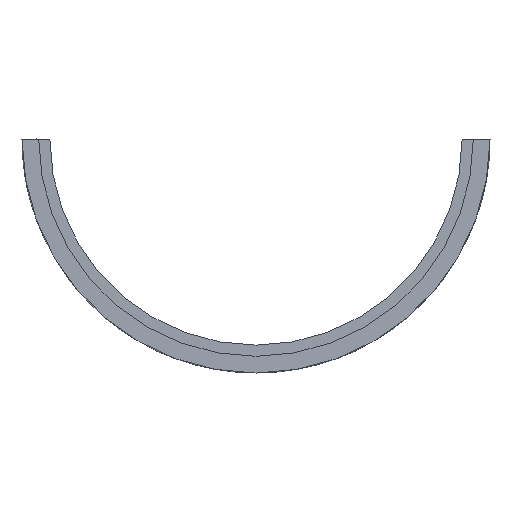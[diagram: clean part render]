
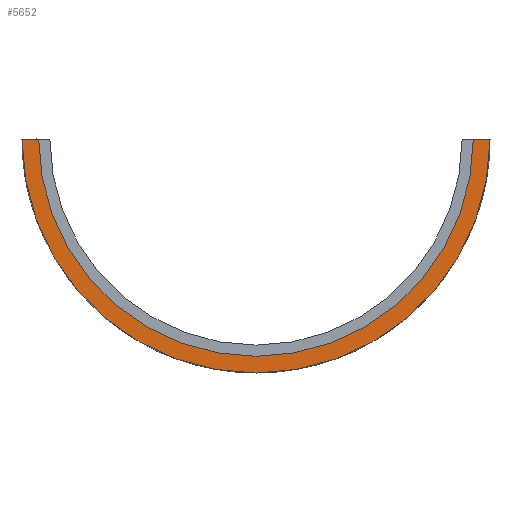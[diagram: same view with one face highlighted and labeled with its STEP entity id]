
A CAD part, left-side view. The second image highlights one B-rep face of the part: STEP entity #5652.
In plain terms, the highlighted planar face has unit normal (-1, 0, 0).
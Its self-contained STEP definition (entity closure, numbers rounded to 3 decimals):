
#21 = EDGE_CURVE('',#22,#24,#26,.T.);
#22 = VERTEX_POINT('',#23);
#23 = CARTESIAN_POINT('',(20.,-21.,0.));
#24 = VERTEX_POINT('',#25);
#25 = CARTESIAN_POINT('',(20.,21.,0.));
#26 = SURFACE_CURVE('',#27,(#32,#44),.PCURVE_S1.);
#27 = CIRCLE('',#28,21.);
#28 = AXIS2_PLACEMENT_3D('',#29,#30,#31);
#29 = CARTESIAN_POINT('',(20.,0.,0.));
#30 = DIRECTION('',(1.,0.,0.));
#31 = DIRECTION('',(0.,-1.,0.));
#32 = PCURVE('',#33,#38);
#33 = CYLINDRICAL_SURFACE('',#34,21.);
#34 = AXIS2_PLACEMENT_3D('',#35,#36,#37);
#35 = CARTESIAN_POINT('',(20.,0.,0.));
#36 = DIRECTION('',(1.,0.,0.));
#37 = DIRECTION('',(0.,0.,-1.));
#38 = DEFINITIONAL_REPRESENTATION('',(#39),#43);
#39 = LINE('',#40,#41);
#40 = CARTESIAN_POINT('',(4.712,0.));
#41 = VECTOR('',#42,1.);
#42 = DIRECTION('',(1.,0.));
#43 = ( GEOMETRIC_REPRESENTATION_CONTEXT(2) 
PARAMETRIC_REPRESENTATION_CONTEXT() REPRESENTATION_CONTEXT('2D SPACE',''
  ) );
#44 = PCURVE('',#45,#50);
#45 = PLANE('',#46);
#46 = AXIS2_PLACEMENT_3D('',#47,#48,#49);
#47 = CARTESIAN_POINT('',(20.,0.,0.));
#48 = DIRECTION('',(1.,0.,0.));
#49 = DIRECTION('',(0.,0.,-1.));
#50 = DEFINITIONAL_REPRESENTATION('',(#51),#55);
#51 = CIRCLE('',#52,21.);
#52 = AXIS2_PLACEMENT_2D('',#53,#54);
#53 = CARTESIAN_POINT('',(0.,0.));
#54 = DIRECTION('',(0.,-1.));
#55 = ( GEOMETRIC_REPRESENTATION_CONTEXT(2) 
PARAMETRIC_REPRESENTATION_CONTEXT() REPRESENTATION_CONTEXT('2D SPACE',''
  ) );
#72 = PLANE('',#73);
#73 = AXIS2_PLACEMENT_3D('',#74,#75,#76);
#74 = CARTESIAN_POINT('',(-10.,-60.,0.));
#75 = DIRECTION('',(0.,0.,1.));
#76 = DIRECTION('',(1.,0.,-0.));
#840 = PLANE('',#841);
#841 = AXIS2_PLACEMENT_3D('',#842,#843,#844);
#842 = CARTESIAN_POINT('',(-10.,-60.,0.));
#843 = DIRECTION('',(0.,0.,1.));
#844 = DIRECTION('',(1.,0.,-0.));
#5207 = CYLINDRICAL_SURFACE('',#5208,19.5);
#5208 = AXIS2_PLACEMENT_3D('',#5209,#5210,#5211);
#5209 = CARTESIAN_POINT('',(19.,0.,0.));
#5210 = DIRECTION('',(1.,0.,0.));
#5211 = DIRECTION('',(0.,0.,-1.));
#5261 = EDGE_CURVE('',#5262,#5264,#5266,.T.);
#5262 = VERTEX_POINT('',#5263);
#5263 = CARTESIAN_POINT('',(20.,-19.5,0.));
#5264 = VERTEX_POINT('',#5265);
#5265 = CARTESIAN_POINT('',(20.,19.5,0.));
#5266 = SURFACE_CURVE('',#5267,(#5272,#5279),.PCURVE_S1.);
#5267 = CIRCLE('',#5268,19.5);
#5268 = AXIS2_PLACEMENT_3D('',#5269,#5270,#5271);
#5269 = CARTESIAN_POINT('',(20.,0.,0.));
#5270 = DIRECTION('',(1.,0.,0.));
#5271 = DIRECTION('',(0.,-1.,0.));
#5272 = PCURVE('',#5207,#5273);
#5273 = DEFINITIONAL_REPRESENTATION('',(#5274),#5278);
#5274 = LINE('',#5275,#5276);
#5275 = CARTESIAN_POINT('',(4.712,1.));
#5276 = VECTOR('',#5277,1.);
#5277 = DIRECTION('',(1.,0.));
#5278 = ( GEOMETRIC_REPRESENTATION_CONTEXT(2) 
PARAMETRIC_REPRESENTATION_CONTEXT() REPRESENTATION_CONTEXT('2D SPACE',''
  ) );
#5279 = PCURVE('',#45,#5280);
#5280 = DEFINITIONAL_REPRESENTATION('',(#5281),#5285);
#5281 = CIRCLE('',#5282,19.5);
#5282 = AXIS2_PLACEMENT_2D('',#5283,#5284);
#5283 = CARTESIAN_POINT('',(0.,0.));
#5284 = DIRECTION('',(0.,-1.));
#5285 = ( GEOMETRIC_REPRESENTATION_CONTEXT(2) 
PARAMETRIC_REPRESENTATION_CONTEXT() REPRESENTATION_CONTEXT('2D SPACE',''
  ) );
#5355 = EDGE_CURVE('',#5262,#22,#5356,.T.);
#5356 = SURFACE_CURVE('',#5357,(#5361,#5367),.PCURVE_S1.);
#5357 = LINE('',#5358,#5359);
#5358 = CARTESIAN_POINT('',(20.,-30.,0.));
#5359 = VECTOR('',#5360,1.);
#5360 = DIRECTION('',(0.,-1.,0.));
#5361 = PCURVE('',#840,#5362);
#5362 = DEFINITIONAL_REPRESENTATION('',(#5363),#5366);
#5363 = B_SPLINE_CURVE_WITH_KNOTS('',1,(#5364,#5365),.UNSPECIFIED.,.F.,
  .F.,(2,2),(-51.,-9.),.PIECEWISE_BEZIER_KNOTS.);
#5364 = CARTESIAN_POINT('',(30.,81.));
#5365 = CARTESIAN_POINT('',(30.,39.));
#5366 = ( GEOMETRIC_REPRESENTATION_CONTEXT(2) 
PARAMETRIC_REPRESENTATION_CONTEXT() REPRESENTATION_CONTEXT('2D SPACE',''
  ) );
#5367 = PCURVE('',#45,#5368);
#5368 = DEFINITIONAL_REPRESENTATION('',(#5369),#5372);
#5369 = B_SPLINE_CURVE_WITH_KNOTS('',1,(#5370,#5371),.UNSPECIFIED.,.F.,
  .F.,(2,2),(-51.,-9.),.PIECEWISE_BEZIER_KNOTS.);
#5370 = CARTESIAN_POINT('',(0.,21.));
#5371 = CARTESIAN_POINT('',(0.,-21.));
#5372 = ( GEOMETRIC_REPRESENTATION_CONTEXT(2) 
PARAMETRIC_REPRESENTATION_CONTEXT() REPRESENTATION_CONTEXT('2D SPACE',''
  ) );
#5624 = EDGE_CURVE('',#24,#5264,#5625,.T.);
#5625 = SURFACE_CURVE('',#5626,(#5630,#5636),.PCURVE_S1.);
#5626 = LINE('',#5627,#5628);
#5627 = CARTESIAN_POINT('',(20.,-30.,0.));
#5628 = VECTOR('',#5629,1.);
#5629 = DIRECTION('',(0.,-1.,0.));
#5630 = PCURVE('',#72,#5631);
#5631 = DEFINITIONAL_REPRESENTATION('',(#5632),#5635);
#5632 = B_SPLINE_CURVE_WITH_KNOTS('',1,(#5633,#5634),.UNSPECIFIED.,.F.,
  .F.,(2,2),(-51.,-9.),.PIECEWISE_BEZIER_KNOTS.);
#5633 = CARTESIAN_POINT('',(30.,81.));
#5634 = CARTESIAN_POINT('',(30.,39.));
#5635 = ( GEOMETRIC_REPRESENTATION_CONTEXT(2) 
PARAMETRIC_REPRESENTATION_CONTEXT() REPRESENTATION_CONTEXT('2D SPACE',''
  ) );
#5636 = PCURVE('',#45,#5637);
#5637 = DEFINITIONAL_REPRESENTATION('',(#5638),#5641);
#5638 = B_SPLINE_CURVE_WITH_KNOTS('',1,(#5639,#5640),.UNSPECIFIED.,.F.,
  .F.,(2,2),(-51.,-9.),.PIECEWISE_BEZIER_KNOTS.);
#5639 = CARTESIAN_POINT('',(0.,21.));
#5640 = CARTESIAN_POINT('',(0.,-21.));
#5641 = ( GEOMETRIC_REPRESENTATION_CONTEXT(2) 
PARAMETRIC_REPRESENTATION_CONTEXT() REPRESENTATION_CONTEXT('2D SPACE',''
  ) );
#5652 = ADVANCED_FACE('',(#5653),#45,.F.);
#5653 = FACE_BOUND('',#5654,.F.);
#5654 = EDGE_LOOP('',(#5655,#5656,#5657,#5658));
#5655 = ORIENTED_EDGE('',*,*,#21,.T.);
#5656 = ORIENTED_EDGE('',*,*,#5624,.T.);
#5657 = ORIENTED_EDGE('',*,*,#5261,.F.);
#5658 = ORIENTED_EDGE('',*,*,#5355,.T.);
